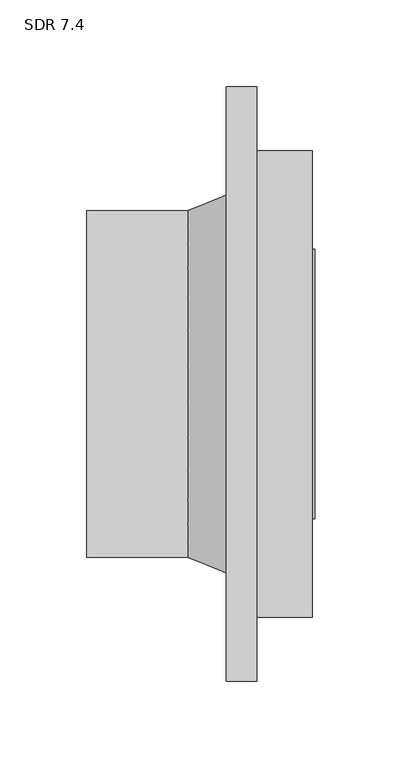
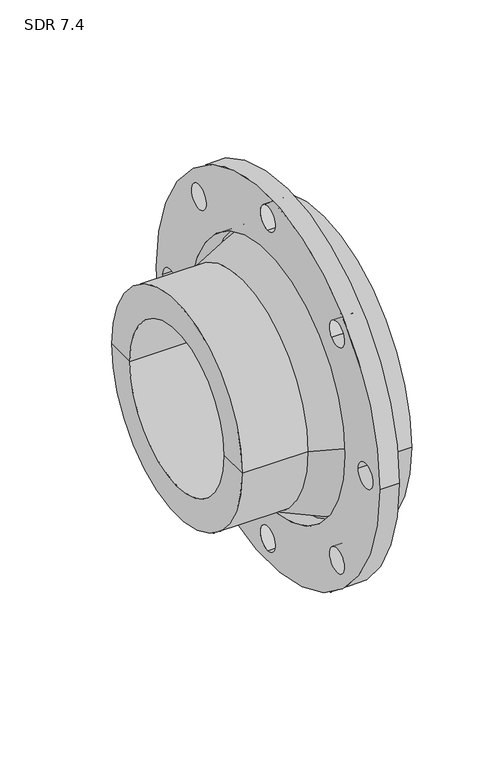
"""IFC4 building model written with IfcOpenShell, lengths in millimetres: valve geometry, Aquatherm - Flange Adapter Butt-Weld : SDR 7.4."""

from ifc_helpers import new_model, si_unit, point, frame, frame_2d, origin, origin_2d, place, context, project, spatial, polyline, circle_curve, trimmed, segment, composite_curve, outline, extrude, source, transform, mapped, element, save
from ifc_brep_helpers import plane_surface, cylinder_surface, revolved_surface, advanced_brep


def sdr_7_4_ec1579f2(model_context):
    return source(origin(), model_context, "Body", "SolidModel", [
        extrude(outline(composite_curve([segment(trimmed(circle_curve(origin_2d(), 171.45), [point((171.45, 0.0))], [point((-171.45, 0.0))], False, "CARTESIAN"), True, "CONTINUOUS"), segment(trimmed(circle_curve(origin_2d(), 171.45), [point((-171.45, 0.0))], [point((171.45, 0.0))], False, "CARTESIAN"), True, "CONTINUOUS")], self_intersect=False), holes=[composite_curve([segment(trimmed(circle_curve(origin_2d(), 118.237), [point((118.237, 0.0))], [point((-118.237, 0.0))], True, "CARTESIAN"), True, "CONTINUOUS"), segment(trimmed(circle_curve(origin_2d(), 118.237), [point((-118.237, 0.0))], [point((118.237, 0.0))], True, "CARTESIAN"), True, "CONTINUOUS")], self_intersect=False), composite_curve([segment(trimmed(circle_curve(frame_2d((-149.86, 0.0)), 11.176), [point((-138.684, 0.0))], [point((-161.036, 0.0))], True, "CARTESIAN"), True, "CONTINUOUS"), segment(trimmed(circle_curve(frame_2d((-149.86, 0.0)), 11.176), [point((-161.036, 0.0))], [point((-138.684, 0.0))], True, "CARTESIAN"), True, "CONTINUOUS")], self_intersect=False), composite_curve([segment(trimmed(circle_curve(frame_2d((-105.9670222, -105.9670222)), 11.176), [point((-98.0643968, -98.0643968))], [point((-113.8696476, -113.8696476))], True, "CARTESIAN"), True, "CONTINUOUS"), segment(trimmed(circle_curve(frame_2d((-105.9670222, -105.9670222)), 11.176), [point((-113.8696476, -113.8696476))], [point((-98.0643968, -98.0643968))], True, "CARTESIAN"), True, "CONTINUOUS")], self_intersect=False), composite_curve([segment(trimmed(circle_curve(frame_2d((-105.9670222, 105.9670222)), 11.176), [point((-98.0643968, 98.0643968))], [point((-113.8696476, 113.8696476))], True, "CARTESIAN"), True, "CONTINUOUS"), segment(trimmed(circle_curve(frame_2d((-105.9670222, 105.9670222)), 11.176), [point((-113.8696476, 113.8696476))], [point((-98.0643968, 98.0643968))], True, "CARTESIAN"), True, "CONTINUOUS")], self_intersect=False), composite_curve([segment(trimmed(circle_curve(frame_2d((0.0, 149.86)), 11.176), [point((0.0, 138.684))], [point((0.0, 161.036))], True, "CARTESIAN"), True, "CONTINUOUS"), segment(trimmed(circle_curve(frame_2d((0.0, 149.86)), 11.176), [point((0.0, 161.036))], [point((0.0, 138.684))], True, "CARTESIAN"), True, "CONTINUOUS")], self_intersect=False), composite_curve([segment(trimmed(circle_curve(frame_2d((105.9670222, 105.9670222)), 11.176), [point((98.0643968, 98.0643968))], [point((113.8696476, 113.8696476))], True, "CARTESIAN"), True, "CONTINUOUS"), segment(trimmed(circle_curve(frame_2d((105.9670222, 105.9670222)), 11.176), [point((113.8696476, 113.8696476))], [point((98.0643968, 98.0643968))], True, "CARTESIAN"), True, "CONTINUOUS")], self_intersect=False), composite_curve([segment(trimmed(circle_curve(frame_2d((149.86, 0.0)), 11.176), [point((138.684, 0.0))], [point((161.036, 0.0))], True, "CARTESIAN"), True, "CONTINUOUS"), segment(trimmed(circle_curve(frame_2d((149.86, 0.0)), 11.176), [point((161.036, 0.0))], [point((138.684, 0.0))], True, "CARTESIAN"), True, "CONTINUOUS")], self_intersect=False), composite_curve([segment(trimmed(circle_curve(frame_2d((105.9670222, -105.9670222)), 11.176), [point((98.0643968, -98.0643968))], [point((113.8696476, -113.8696476))], True, "CARTESIAN"), True, "CONTINUOUS"), segment(trimmed(circle_curve(frame_2d((105.9670222, -105.9670222)), 11.176), [point((113.8696476, -113.8696476))], [point((98.0643968, -98.0643968))], True, "CARTESIAN"), True, "CONTINUOUS")], self_intersect=False), composite_curve([segment(trimmed(circle_curve(frame_2d((0.0, -149.86)), 11.176), [point((0.0, -138.684))], [point((0.0, -161.036))], True, "CARTESIAN"), True, "CONTINUOUS"), segment(trimmed(circle_curve(frame_2d((0.0, -149.86)), 11.176), [point((0.0, -161.036))], [point((0.0, -138.684))], True, "CARTESIAN"), True, "CONTINUOUS")], self_intersect=False)]), frame((-17.526, 0.0, 0.0), z_axis=(1.0, 0.0, 0.0), x_axis=(0.0, 1.0, 0.0)), (0.0, 0.0, 1.0), 17.526),
        advanced_brep(
        [(32.004, -134.62, 0.0), (0.0, -134.62, 0.0), (0.0, 134.62, 0.0), (32.004, 134.62, 0.0), (33.5915, -72.517, 0.0), (33.5915, -77.597, 0.0), (33.5915, 77.597, 0.0), (33.5915, 72.517, 0.0), (-98.044, -72.517, 0.0), (-98.044, 72.517, 0.0), (-98.044, -99.949, 0.0), (-98.044, 99.949, 0.0), (-39.878, -99.949, 0.0), (-39.878, 99.949, 0.0), (0.0, -115.951, 0.0), (0.0, 115.951, 0.0), (32.004, -77.597, 0.0), (32.004, 77.597, 0.0)],
        [
            (0, 1),
            (1, 2, circle_curve(frame((0.0, 0.0, 0.0), z_axis=(1.0, 0.0, 0.0), x_axis=(0.0, 1.0, 0.0)), 134.62)),
            (2, 3),
            (3, 0, circle_curve(frame((32.004, 0.0, 0.0), z_axis=(-1.0, 0.0, 0.0), x_axis=(0.0, 1.0, 0.0)), 134.62)),
            (2, 1, circle_curve(frame((0.0, 0.0, 0.0), z_axis=(1.0, 0.0, 0.0), x_axis=(0.0, 1.0, 0.0)), 134.62)),
            (0, 3, circle_curve(frame((32.004, 0.0, 0.0), z_axis=(-1.0, 0.0, 0.0), x_axis=(0.0, 1.0, 0.0)), 134.62)),
            (4, 5),
            (5, 6, circle_curve(frame((33.5915, 0.0, 0.0), z_axis=(1.0, 0.0, 0.0), x_axis=(0.0, 1.0, 0.0)), 77.597)),
            (6, 7),
            (7, 4, circle_curve(frame((33.5915, 0.0, 0.0), z_axis=(-1.0, 0.0, 0.0), x_axis=(0.0, 1.0, 0.0)), 72.517)),
            (6, 5, circle_curve(frame((33.5915, 0.0, 0.0), z_axis=(1.0, 0.0, 0.0), x_axis=(0.0, 1.0, 0.0)), 77.597)),
            (4, 7, circle_curve(frame((33.5915, 0.0, 0.0), z_axis=(-1.0, 0.0, 0.0), x_axis=(0.0, 1.0, 0.0)), 72.517)),
            (8, 4),
            (7, 9),
            (9, 8, circle_curve(frame((-98.044, 0.0, 0.0), z_axis=(-1.0, 0.0, 0.0), x_axis=(0.0, 1.0, 0.0)), 72.517)),
            (8, 9, circle_curve(frame((-98.044, 0.0, 0.0), z_axis=(-1.0, 0.0, 0.0), x_axis=(0.0, 1.0, 0.0)), 72.517)),
            (10, 8),
            (9, 11),
            (11, 10, circle_curve(frame((-98.044, 0.0, 0.0), z_axis=(-1.0, 0.0, 0.0), x_axis=(0.0, 1.0, 0.0)), 99.949)),
            (10, 11, circle_curve(frame((-98.044, 0.0, 0.0), z_axis=(-1.0, 0.0, 0.0), x_axis=(0.0, 1.0, 0.0)), 99.949)),
            (12, 10),
            (11, 13),
            (13, 12, circle_curve(frame((-39.878, 0.0, 0.0), z_axis=(-1.0, 0.0, 0.0), x_axis=(0.0, 1.0, 0.0)), 99.949)),
            (12, 13, circle_curve(frame((-39.878, 0.0, 0.0), z_axis=(-1.0, 0.0, 0.0), x_axis=(0.0, 1.0, 0.0)), 99.949)),
            (1, 14),
            (14, 15, circle_curve(frame((0.0, 0.0, 0.0), z_axis=(1.0, 0.0, 0.0), x_axis=(0.0, 1.0, 0.0)), 115.951)),
            (15, 2),
            (15, 14, circle_curve(frame((0.0, 0.0, 0.0), z_axis=(1.0, 0.0, 0.0), x_axis=(0.0, 1.0, 0.0)), 115.951)),
            (16, 0),
            (3, 17),
            (17, 16, circle_curve(frame((32.004, 0.0, 0.0), z_axis=(-1.0, 0.0, 0.0), x_axis=(0.0, 1.0, 0.0)), 77.597)),
            (16, 17, circle_curve(frame((32.004, 0.0, 0.0), z_axis=(-1.0, 0.0, 0.0), x_axis=(0.0, 1.0, 0.0)), 77.597)),
            (5, 16),
            (17, 6),
            (14, 12),
            (13, 15),
        ],
        [
            cylinder_surface(frame((1472.6429321, 0.0, 0.0), z_axis=(1.0, 0.0, 0.0), x_axis=(0.0, 1.0, 0.0)), 134.62),
            plane_surface(frame((33.5915, 0.0, 0.0), z_axis=(1.0, 0.0, 0.0), x_axis=(0.0, 1.0, 0.0))),
            revolved_surface(polyline([(33.591499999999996, 72.517, 0.0), (-98.0440000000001, 72.517, 0.0)]), (1472.6429321, 0.0, 0.0), (1.0, 0.0, 0.0)),
            plane_surface(frame((-98.044, 0.0, 0.0), z_axis=(-1.0, 0.0, 0.0), x_axis=(0.0, 1.0, 0.0))),
            cylinder_surface(frame((1472.6429321, 0.0, 0.0), z_axis=(1.0, 0.0, 0.0), x_axis=(0.0, 1.0, 0.0)), 99.949),
            plane_surface(frame((0.0, 0.0, 0.0), z_axis=(-1.0, 0.0, 0.0), x_axis=(0.0, 1.0, 0.0))),
            plane_surface(frame((32.004, 0.0, 0.0), z_axis=(1.0, 0.0, 0.0), x_axis=(0.0, 1.0, 0.0))),
            cylinder_surface(frame((1472.6429321, 0.0, 0.0), z_axis=(1.0, 0.0, 0.0), x_axis=(0.0, 1.0, 0.0)), 77.597),
            revolved_surface(polyline([(-39.878, 99.949, 0.0), (0.0, 115.951, 0.0)]), (1472.6429321, 0.0, 0.0), (1.0, 0.0, 0.0)),
        ],
        [
            (0, [[1, 2, 3, 4]]),
            (0, [[-3, 5, -1, 6]]),
            (1, [[7, 8, 9, 10]]),
            (1, [[-9, 11, -7, 12]]),
            (2, [[13, -10, 14, 15]]),
            (2, [[-14, -12, -13, 16]]),
            (3, [[17, -15, 18, 19]]),
            (3, [[-18, -16, -17, 20]]),
            (4, [[21, -19, 22, 23]]),
            (4, [[-22, -20, -21, 24]]),
            (5, [[25, 26, 27, -2]]),
            (5, [[-27, 28, -25, -5]]),
            (6, [[29, -4, 30, 31]]),
            (6, [[-30, -6, -29, 32]]),
            (7, [[33, -31, 34, -8]]),
            (7, [[-34, -32, -33, -11]]),
            (8, [[35, -23, 36, -26]]),
            (8, [[-36, -24, -35, -28]]),
        ],
    ),
    ])


if __name__ == "__main__":
    model = new_model("IFC4")
    model_context = context("Model", 3, world=origin())
    ifc_project = project(units=[si_unit("LENGTHUNIT", "METRE", prefix="MILLI")], contexts=[model_context])
    site = spatial("IfcSite", under=ifc_project)
    building = spatial("IfcBuilding", under=site)
    placement = place(None, origin())
    sdr_7_4_shape = sdr_7_4_ec1579f2(model_context)
    element("IfcValve", 1, ObjectType="Aquatherm - Flange Adapter Butt-Weld : SDR 7.4", at=placement, inside=building, context=model_context, shape_type="MappedRepresentation", body=[
        mapped(sdr_7_4_shape, transform((0.0, 0.0, 0.0), x_axis=(1.0, 0.0, 0.0), y_axis=(0.0, 1.0, 0.0), z_axis=(0.0, 0.0, 1.0))),
    ])
    save(model, "model.ifc")
